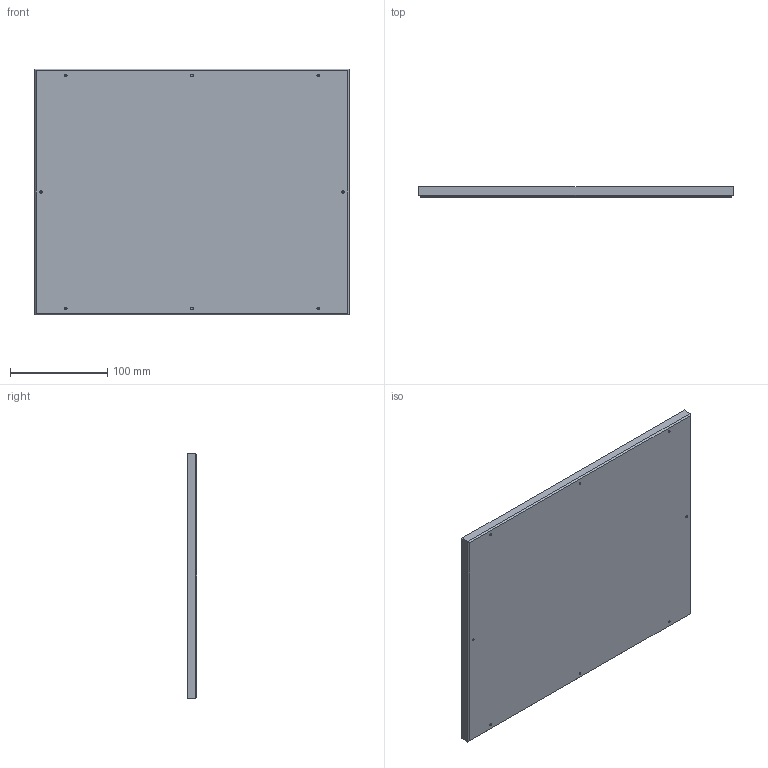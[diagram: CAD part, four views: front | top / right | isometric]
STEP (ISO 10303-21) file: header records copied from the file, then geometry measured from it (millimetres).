
FILE_DESCRIPTION (( 'STEP AP214' ), '1' );
FILE_NAME ('Asyril_FLAT VIBRATING PLATE (POM-C) - 380_000.102.555_(option).STEP', '2019-04-01T11:17:44', ( 'Standard' ), ( '' ), 'SwSTEP 2.0', 'SolidWorks 2017', '' );
FILE_SCHEMA (( 'AUTOMOTIVE_DESIGN' ));
Length unit declared in the file: millimetre
Products named in the file (1): Asyril_FLAT VIBRATING PLATE (POM-C) - 380_000.102.555_(option)
Bounding box: 323.8 x 10 x 252.8 mm (x, y, z)
Volume: 817028.1 mm3; surface area: 174611.8 mm2
Topology: 1 solids, 1 shells, 42 faces, 100 edges, 52 vertices
Faces by surface type: cylinder 16, cone 16, plane 10
Entity records: 1294 total; most frequent: DIRECTION 202, CARTESIAN_POINT 179, ORIENTED_EDGE 168, EDGE_CURVE 84, AXIS2_PLACEMENT_3D 75, LINE 52, VERTEX_POINT 52, VECTOR 52
